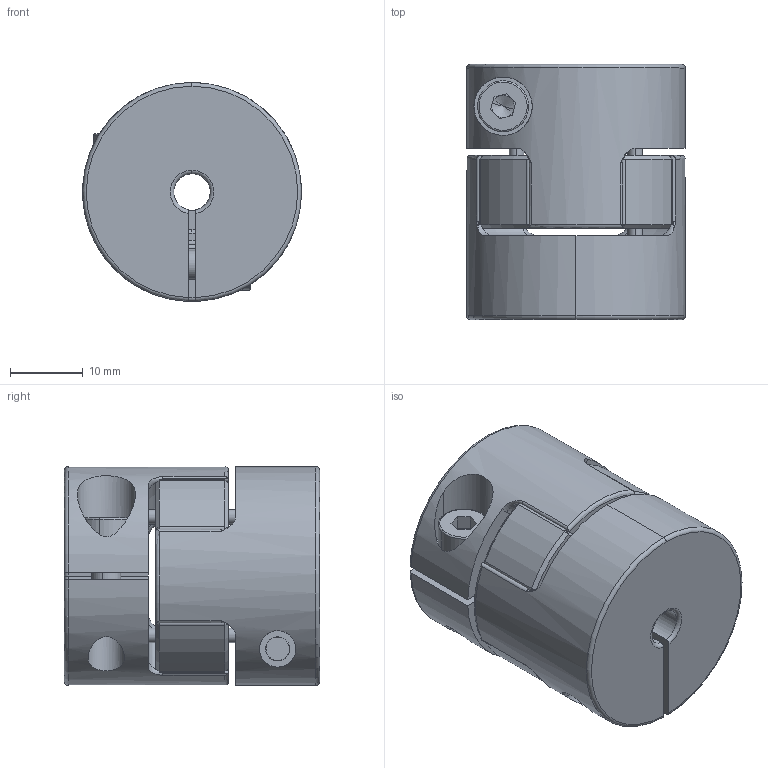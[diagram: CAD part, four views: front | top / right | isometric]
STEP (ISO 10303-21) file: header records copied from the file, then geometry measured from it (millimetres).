
FILE_DESCRIPTION (( 'STEP AP203' ), '1' );
FILE_NAME ('DXA-30X35-5-5.STEP', '2023-10-18T03:36:45', ( '' ), ( '' ), 'SwSTEP 2.0', 'SolidWorks 2020', '' );
FILE_SCHEMA (( 'CONFIG_CONTROL_DESIGN' ));
Length unit declared in the file: millimetre
Products named in the file (5): 30繩豪菜; 30X35標踡倰繩豪釱10謂; 30X35標踡倰繩豪釱; DXA-30X35-5-5; socket head cap screw_iso_ISO 4762 M4 x 12 - 12C
Assembly tree (5 placements, depth 2):
  DXA-30X35-5-5
    30繩豪菜
    30X35標踡倰繩豪釱10謂
    socket head cap screw_iso_ISO 4762 M4 x 12 - 12C  x2
    30X35標踡倰繩豪釱
Bounding box: 30 x 35 x 30 mm (x, y, z)
Volume: 21364.3 mm3; surface area: 10494 mm2
Topology: 5 solids, 5 shells, 277 faces, 665 edges, 390 vertices
Faces by surface type: cylinder 109, cone 56, plane 56, torus 56
Entity records: 8194 total; most frequent: CARTESIAN_POINT 1782, DIRECTION 1353, ORIENTED_EDGE 1170, EDGE_CURVE 585, AXIS2_PLACEMENT_3D 582, VERTEX_POINT 357, CIRCLE 324, EDGE_LOOP 274
